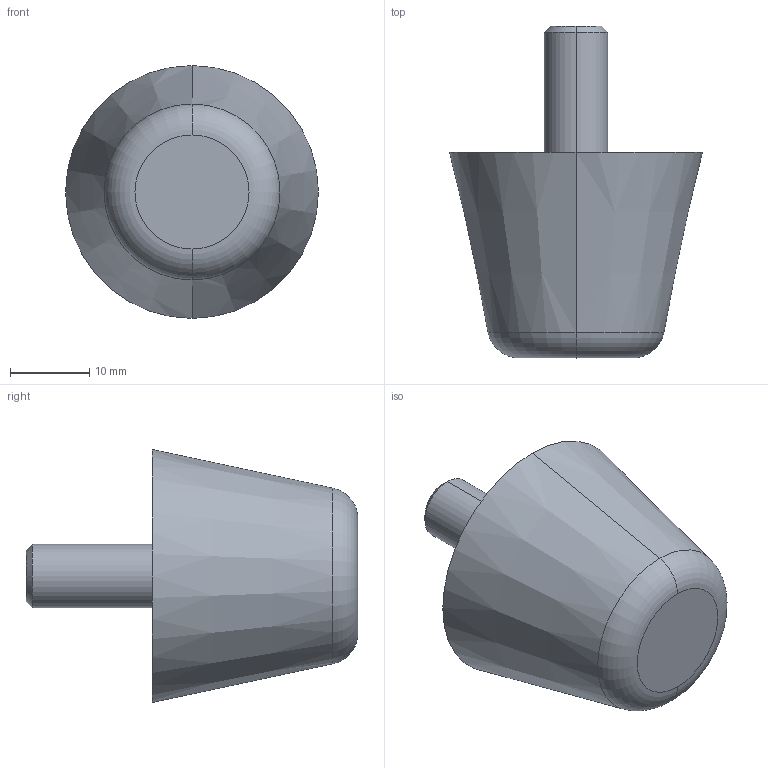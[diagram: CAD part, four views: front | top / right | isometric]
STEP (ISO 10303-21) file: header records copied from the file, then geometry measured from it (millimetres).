
FILE_DESCRIPTION (( 'STEP AP214' ), '1' );
FILE_NAME ('253-32-M8-16-40.step', '2023-03-24T07:37:50', ( '' ), ( '' ), 'SwSTEP 2.0', 'SolidWorks 2022', '' );
FILE_SCHEMA (( 'AUTOMOTIVE_DESIGN' ));
Length unit declared in the file: millimetre
Products named in the file (1): 253-32-M8-16-40
Bounding box: 32 x 41.99 x 32 mm (x, y, z)
Volume: 15158.9 mm3; surface area: 3673.9 mm2
Topology: 1 solids, 1 shells, 14 faces, 26 edges, 16 vertices
Faces by surface type: cone 6, plane 4, cylinder 2, torus 2
Entity records: 500 total; most frequent: DIRECTION 74, CARTESIAN_POINT 57, ORIENTED_EDGE 52, AXIS2_PLACEMENT_3D 33, EDGE_CURVE 26, CIRCLE 18, VERTEX_POINT 16, EDGE_LOOP 16
